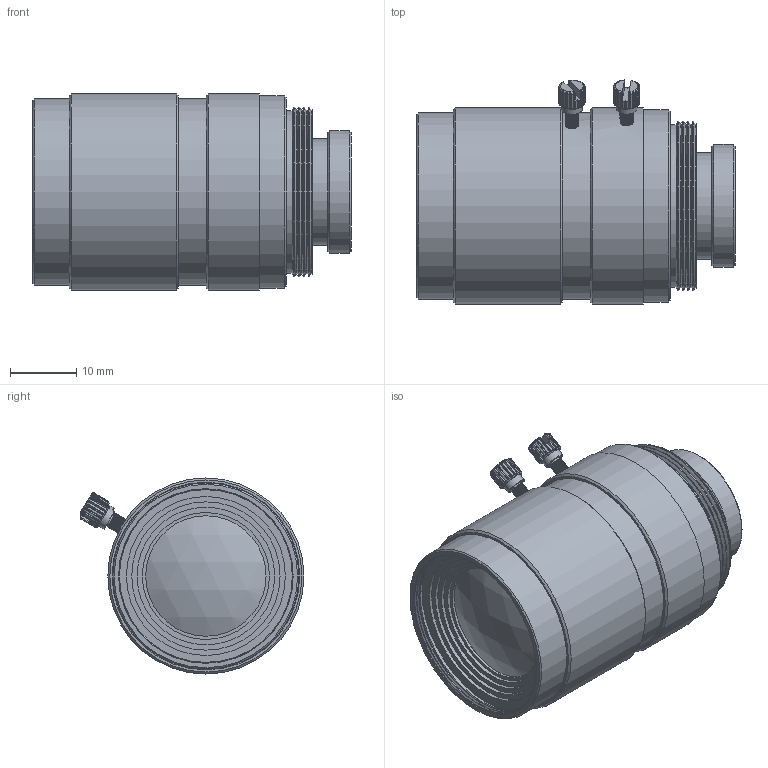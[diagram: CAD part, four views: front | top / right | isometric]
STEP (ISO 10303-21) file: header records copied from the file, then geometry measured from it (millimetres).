
FILE_DESCRIPTION(/* description */ ('TCL 1216 5MP'),/* implementation_level */ '2;1');
FILE_NAME(/* name */ 'D:\1_Konstruktion\1_KUNDEN\TIS\199-15_Objektive_Step-Dateien für Endkundem\C-Objektive (8x)\Lens_TCL 1216 5MP.stp',/* time_stamp */ '2016-01-28T19:58:35+01:00',/* author */ ('khw'),/* organization */ (''),/* preprocessor_version */ 'ST-DEVELOPER v15.2',/* originating_system */ 'Autodesk Inventor 2014',/* authorisation */ '6767,5 mm^3');
FILE_SCHEMA (('AUTOMOTIVE_DESIGN { 1 0 10303 214 3 1 1 }'));
Length unit declared in the file: millimetre
Products named in the file (1): Lens_TCL 1216 5MP
Bounding box: 47.88 x 33.68 x 29.5 mm (x, y, z)
Volume: 15362.6 mm3; surface area: 17122.4 mm2
Topology: 4 solids, 4 shells, 835 faces, 2554 edges, 1410 vertices
Faces by surface type: bspline 366, cylinder 255, plane 148, cone 58, sphere 4, torus 4
Full cylindrical faces by diameter (mm): 2 x47, 3.1 x2, 8.897 x1, 11.8 x1, 12.89 x1, 13 x1, 16 x1, 17 x1, 17.597 x1, 18.11 x1, 18.3 x1, 18.5 x1, 19 x2, 19.11 x1, 19.6 x1, 20 x3, 20.2 x5, 20.71 x1, 21 x1, 22 x3, 22.31 x1, 23 x1, 23.02 x11, 23.6 x1, 23.91 x1, 24 x1, 24.5 x2, 24.6 x1, 24.8 x1, 25 x7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
Entity records: 72597 total; most frequent: CARTESIAN_POINT 53703, ORIENTED_EDGE 4372, DIRECTION 3106, EDGE_CURVE 2186, AXIS2_PLACEMENT_3D 1379, VERTEX_POINT 1342, CIRCLE 948, EDGE_LOOP 944
